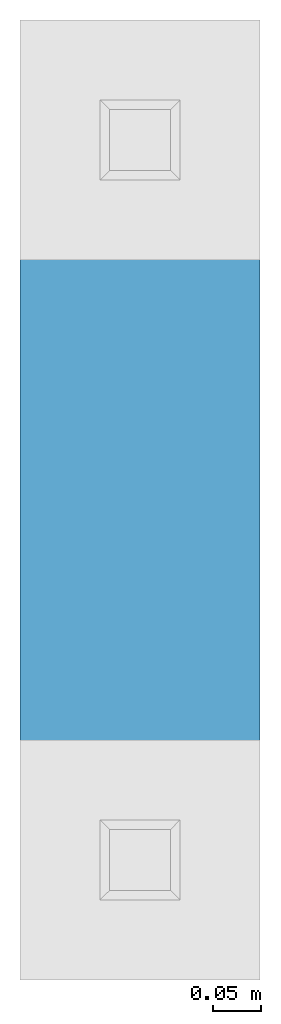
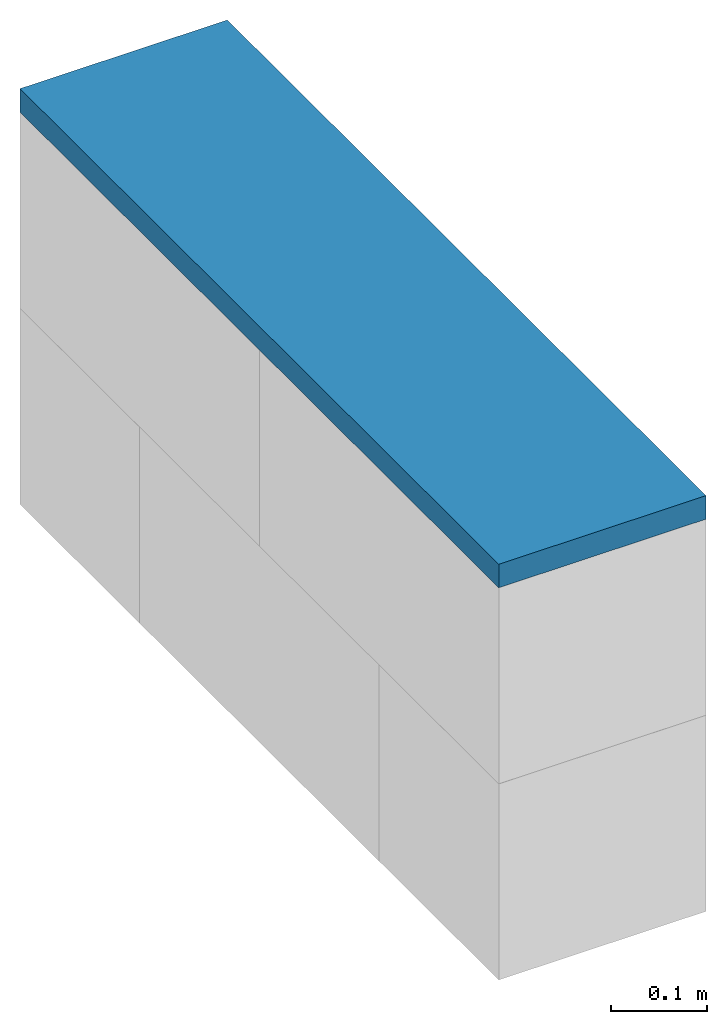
# One storey, incomplete: 1 wall.
"""IFC4 building model written with IfcOpenShell, lengths in centimetres."""

import ifcopenshell
import ifcopenshell.guid

model = None  # the IFC model being written
_history = None  # IfcOwnerHistory: only IFC2X3 demands one
_inside = {}  # id of a spatial element -> (the spatial element, [elements in it])
_under = {}  # id of a project, library or spatial element -> (it, [spatial elements below it])
_declared = {}  # id of a project -> (the project, [libraries it declares])
_typed = {}  # id of a type object -> (the type object, [elements of that type])
_made_of = {}  # id of a material, layer set ... -> (it, [elements and type objects made of it])


def new_model(schema):
    """Start an empty IFC model of exactly this schema.

    Asked for "IFC4X3", IfcOpenShell would pick the latest addendum, in which some entities
    have other attributes; the version numbers below select the first issue.
    IFC2X3 requires an IfcOwnerHistory on every rooted entity: one is made here for all.
    """
    global model, _history
    if schema == "IFC4X3":
        model = ifcopenshell.file(schema_version=(4, 3, 0, 0))
    else:
        model = ifcopenshell.file(schema=schema)
    _inside.clear()
    _under.clear()
    _declared.clear()
    _typed.clear()
    _made_of.clear()
    _history = None
    if model.schema == "IFC2X3":
        org = make("IfcOrganization", Name="unknown")
        user = make(
            "IfcPersonAndOrganization",
            ThePerson=make("IfcPerson", FamilyName="unknown"),
            TheOrganization=org,
        )
        app = make(
            "IfcApplication",
            ApplicationDeveloper=org,
            Version="unknown",
            ApplicationFullName="unknown",
            ApplicationIdentifier="unknown",
        )
        _history = make(
            "IfcOwnerHistory",
            OwningUser=user,
            OwningApplication=app,
            ChangeAction="ADDED",
            CreationDate=0,
        )
    return model


def make(cls, **values):
    """One entity of the class cls with the attributes given. An attribute that is None is left unset."""
    return model.create_entity(
        cls, **{name: value for name, value in values.items() if value is not None}
    )


def entity(cls, *values):
    """Any entity or typed value of the class cls, its attributes in the order of the schema. None: left unset."""
    e = model.create_entity(cls)
    for i, value in enumerate(values):
        if value is not None:
            e[i] = value
    return e


def rooted(cls, **values):
    """An entity with a GlobalId (a new one), such as an element, a storey or a relation."""
    return make(cls, GlobalId=ifcopenshell.guid.new(), OwnerHistory=_history, **values)


def si_unit(unit_type, name, prefix=None):
    """IfcSIUnit, for example si_unit("LENGTHUNIT", "METRE", prefix="MILLI")."""
    return make("IfcSIUnit", UnitType=unit_type, Prefix=prefix, Name=name)


def converted_unit(unit_type, name, factor, base, dimensions=None, offset=None):
    """IfcConversionBasedUnit, such as the inch: factor (a typed value) times the base unit."""
    return make(
        "IfcConversionBasedUnit"
        if offset is None
        else "IfcConversionBasedUnitWithOffset",
        ConversionOffset=offset,
        Dimensions=None
        if dimensions is None
        else entity("IfcDimensionalExponents", *dimensions),
        UnitType=unit_type,
        Name=name,
        ConversionFactor=make(
            "IfcMeasureWithUnit", ValueComponent=factor, UnitComponent=base
        ),
    )


def assignment(units):
    """IfcUnitAssignment: the units of a project."""
    return None if units is None else make("IfcUnitAssignment", Units=units)


def point(xyz):
    """IfcCartesianPoint."""
    return None if xyz is None else make("IfcCartesianPoint", Coordinates=xyz)


def direction(xyz):
    """IfcDirection."""
    return None if xyz is None else make("IfcDirection", DirectionRatios=xyz)


def frame(location, z_axis=None, x_axis=None):
    """IfcAxis2Placement3D, a coordinate frame: its origin and axes. An axis left out is left unset."""
    return make(
        "IfcAxis2Placement3D",
        Location=point(location),
        Axis=direction(z_axis),
        RefDirection=direction(x_axis),
    )


def origin():
    """The frame at (0, 0, 0) with its axes left unset."""
    return frame((0.0, 0.0, 0.0))


def place(relative_to, where):
    """IfcLocalPlacement: puts the frame where relative to a parent placement (None: the world)."""
    return make(
        "IfcLocalPlacement", PlacementRelTo=relative_to, RelativePlacement=where
    )


def context(
    kind, dimensions, precision=None, world=None, true_north=None, identifier=None
):
    """IfcGeometricRepresentationContext, for example the 3D "Model" context."""
    return make(
        "IfcGeometricRepresentationContext",
        ContextIdentifier=identifier,
        ContextType=kind,
        CoordinateSpaceDimension=dimensions,
        Precision=precision,
        WorldCoordinateSystem=world,
        TrueNorth=true_north,
    )


def subcontext(parent, identifier, kind, view, scale=None):
    """IfcGeometricRepresentationSubContext, for example "Body" below "Model"."""
    return make(
        "IfcGeometricRepresentationSubContext",
        ContextIdentifier=identifier,
        ContextType=kind,
        ParentContext=parent,
        TargetScale=scale,
        TargetView=view,
    )


def project(units=None, contexts=None):
    """IfcProject with its units and contexts."""
    return rooted(
        "IfcProject",
        Name="project",
        RepresentationContexts=contexts,
        UnitsInContext=assignment(units),
    )


def spatial(cls, under=None, at=None, **own):
    """A site, building, storey or space (cls), placed at a placement, below another one or the project."""
    s = rooted(cls, ObjectPlacement=at, **own)
    if under is not None:
        _under.setdefault(under.id(), (under, []))[1].append(s)
    return s


def point_list(points):
    """IfcCartesianPointList2D or 3D."""
    cls = (
        "IfcCartesianPointList2D" if len(points[0]) == 2 else "IfcCartesianPointList3D"
    )
    return make(cls, CoordList=points)


def indexed_curve(points, segments=None, self_intersect=None):
    """IfcIndexedPolyCurve: lines and arcs through numbered points (the first is 1)."""
    return make(
        "IfcIndexedPolyCurve",
        Points=point_list(points),
        Segments=segments,
        SelfIntersect=self_intersect,
    )


def outline(outer, holes=None, kind="AREA"):
    """IfcArbitraryClosedProfileDef: a profile drawn as a closed curve; with holes, ...WithVoids."""
    if holes is None:
        return make("IfcArbitraryClosedProfileDef", ProfileType=kind, OuterCurve=outer)
    return make(
        "IfcArbitraryProfileDefWithVoids",
        ProfileType=kind,
        OuterCurve=outer,
        InnerCurves=holes,
    )


def extrude(swept, where, along, depth):
    """IfcExtrudedAreaSolid: the profile swept, set in the frame where, extruded along a direction by depth."""
    return make(
        "IfcExtrudedAreaSolid",
        SweptArea=swept,
        Position=where,
        ExtrudedDirection=direction(along),
        Depth=depth,
    )


def shape(context_of_items, identifier, shape_type, items):
    """IfcShapeRepresentation: the items that make up one representation, for example the "Body"."""
    return make(
        "IfcShapeRepresentation",
        ContextOfItems=context_of_items,
        RepresentationIdentifier=identifier,
        RepresentationType=shape_type,
        Items=items,
    )


def material(Name=None, Category=None):
    """IfcMaterial."""
    return make("IfcMaterial", Name=Name, Category=Category)


def made_of(thing, what):
    """Note that an element or type object is made of a material, layer set ...; save() writes the relation."""
    if what is not None:
        _made_of.setdefault(what.id(), (what, []))[1].append(thing)
    return thing


def type_object(cls, material=None, **own):
    """A type object (cls), such as IfcWallType, which elements share."""
    return made_of(rooted(cls, **own), material)


def element(
    cls,
    number,
    at=None,
    inside=None,
    cuts=None,
    type_object=None,
    material=None,
    context=None,
    identifier="Body",
    shape_type=None,
    held_by="IfcProductDefinitionShape",
    body=None,
    shapes=None,
    **own,
):
    """One element of the class cls, such as IfcWall. Its Tag is "e" and its number.

    at: its placement. inside: the storey or other place that contains it. cuts: it is an
    opening in that element (IfcRelVoidsElement). A single representation is given by context,
    identifier, shape_type and body (its items); several are given by shapes. held_by: the class
    of the entity that holds the representations. save() writes the other relations.
    """
    e = rooted(cls, Tag="e%d" % number, ObjectPlacement=at, **own)
    if body is not None:
        shapes = [shape(context, identifier, shape_type, body)]
    if shapes is not None:
        e.Representation = make(held_by, Representations=shapes)
    if inside is not None:
        _inside.setdefault(inside.id(), (inside, []))[1].append(e)
    if cuts is not None:
        rooted(
            "IfcRelVoidsElement", RelatingBuildingElement=cuts, RelatedOpeningElement=e
        )
    if type_object is not None:
        _typed.setdefault(type_object.id(), (type_object, []))[1].append(e)
    return made_of(e, material)


def aggregate(whole, parts):
    """IfcRelAggregates: a whole, such as a stair, and the parts it consists of."""
    return rooted("IfcRelAggregates", RelatingObject=whole, RelatedObjects=parts)


def save(model, path):
    """Write the relations noted so far, then the file.

    IfcRelAggregates (storeys below a building ...), IfcRelContainedInSpatialStructure (elements
    in a storey), IfcRelDefinesByType, IfcRelAssociatesMaterial and IfcRelDeclares: one each for
    every whole, place, type object, material and project.
    """
    for whole, parts in _under.values():
        aggregate(whole, parts)
    for where, things in _inside.values():
        rooted(
            "IfcRelContainedInSpatialStructure",
            RelatedElements=things,
            RelatingStructure=where,
        )
    for kind, things in _typed.values():
        rooted("IfcRelDefinesByType", RelatedObjects=things, RelatingType=kind)
    for what, things in _made_of.values():
        rooted("IfcRelAssociatesMaterial", RelatedObjects=things, RelatingMaterial=what)
    for by, libraries in _declared.values():
        rooted("IfcRelDeclares", RelatingContext=by, RelatedDefinitions=libraries)
    model.write(path)


model = new_model("IFC4")

# Units and contexts
model_context = context("Model", 3, precision=0.001, world=origin(), true_north=direction((0.0, 1.0)))
body_context = subcontext(model_context, "Body", "Model", "MODEL_VIEW")
ifc_project = project(units=[si_unit("LENGTHUNIT", "METRE", prefix="CENTI"), si_unit("AREAUNIT", "SQUARE_METRE"), si_unit("VOLUMEUNIT", "CUBIC_METRE"), converted_unit("PLANEANGLEUNIT", "DEGREE", entity("IfcPlaneAngleMeasure", 0.017453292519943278), si_unit("PLANEANGLEUNIT", "RADIAN"), dimensions=[0, 0, 0, 0, 0, 0, 0])], contexts=[model_context])

# Site, building, storey
site_placement = place(None, origin())
site = spatial("IfcSite", under=ifc_project, at=site_placement, Name="Default", CompositionType="ELEMENT")
building_placement = place(site_placement, origin())
building = spatial("IfcBuilding", under=site, at=building_placement, CompositionType="ELEMENT")
storey_placement = place(building_placement, frame((0.0, 0.0, -312.0)))
storey = spatial("IfcBuildingStorey", under=building, at=storey_placement, Name="B1__ABOVE Slab", CompositionType="ELEMENT", Elevation=-312.0000000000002)

# Wall
ifc_material = material(Name="_STRUCTURE__Wood Solid")
wall_type = type_object("IfcWallType", Name="Columns : wll_s__DECOUPLING BEAM__Rectangular__wp : Wood", PredefinedType="SOLIDWALL", material=ifc_material)
wall_placement = place(storey_placement, frame((1413.1494566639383, 219.3718731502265, 289.5000000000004), z_axis=(0.0, 0.0, 1.0), x_axis=(0.0, 1.0, 0.0)))
element("IfcWall", 1, at=wall_placement, inside=storey, type_object=wall_type, material=ifc_material, Name="Columns : wll_s__DECOUPLING BEAM__Rectangular__wp : Wood", PredefinedType="SOLIDWALL", context=body_context, shape_type="SweptSolid", body=[
    extrude(outline(indexed_curve([(-50.00000000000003, -12.500000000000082), (50.00000000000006, -12.500000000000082), (50.00000000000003, 12.500000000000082), (-50.00000000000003, 12.499999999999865), (-50.00000000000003, -12.500000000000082)], self_intersect=False)), frame((50.0, -12.500000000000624, 0.0), z_axis=(0.0, 0.0, 1.0), x_axis=(-1.0, 0.0, 0.0)), (0.0, 0.0, 1.0), 2.999999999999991),
])

save(model, "model.ifc")
